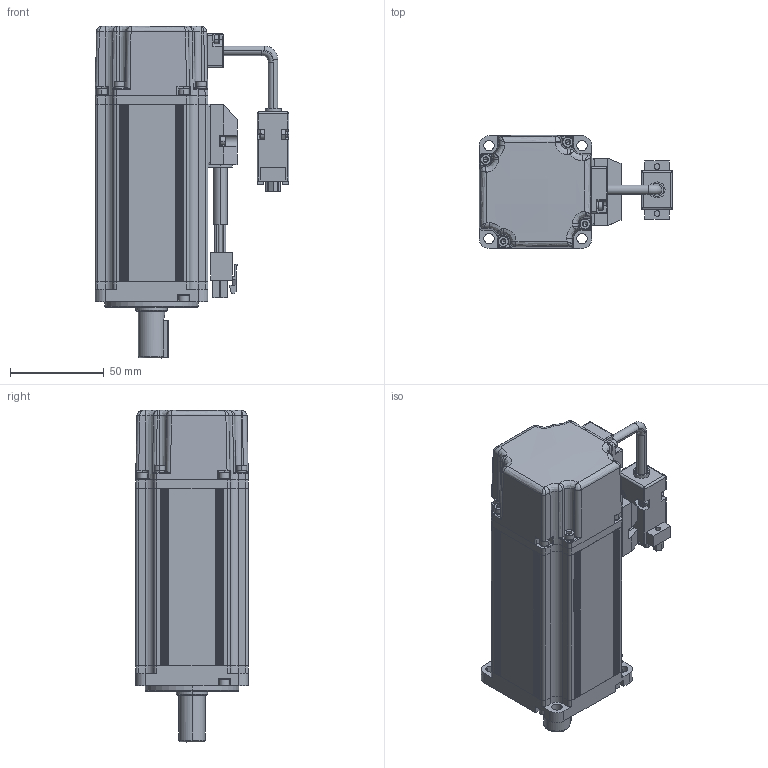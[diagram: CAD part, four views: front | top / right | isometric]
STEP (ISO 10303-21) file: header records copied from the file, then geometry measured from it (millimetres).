
FILE_DESCRIPTION((''),'2;1');
FILE_NAME('D555MH06-0R4G-2-1A0-1000_ASM','2018-05-02T',('Administrator'),(''),'PRO/ENGINEER BY PARAMETRIC TECHNOLOGY CORPORATION, 2009440','PRO/ENGINEER BY PARAMETRIC TECHNOLOGY CORPORATION, 2009440','');
FILE_SCHEMA(('CONFIG_CONTROL_DESIGN'));
Products named in the file (31): MH60-400W-8599; MH60-400-Z_ASM; ML60-QDG; 60-MFQ; 60-ZYG; GB-T93-2R5; GB-T70-M2R5X8; OQ-52X1; GB-T276-6003; GB-T93-3; GB-T70-M3X16; GB-T9877-17X28X4; ML60-Q_ASM; MH60-400W-JK; GB-T97-3; GB-T70-M3X5; DYX-CT; DYX-YXH; MH60-400W-DZ_ASM; 5X5X20; 60-H-JDS; OQ-50X1; 60-H-JDS_ASM; 60-FHZ-L; XHXCT; XHX; GB-T70-M3X12; 60-FHZ-ZJ_ASM; DYX-ZJ; XHX-ZJ; D555MH06-0R4G-2-1A0-1000_ASM
Assembly tree (65 placements, depth 3):
  D555MH06-0R4G-2-1A0-1000_ASM
    MH60-400-Z_ASM
      MH60-400W-8599
    ML60-Q_ASM
      ML60-QDG
      60-MFQ
      60-ZYG
      GB-T93-2R5  x3
      GB-T70-M2R5X8  x3
      OQ-52X1
      GB-T276-6003
      GB-T93-3  x4
      GB-T70-M3X16  x4
      GB-T9877-17X28X4
    MH60-400W-DZ_ASM
      MH60-400W-JK
      GB-T97-3
      GB-T93-3
      GB-T70-M3X5
      DYX-CT
      DYX-YXH
      GB-T93-2R5  x2
      GB-T70-M2R5X8  x2
    5X5X20
    60-H-JDS_ASM
      60-H-JDS
      OQ-52X1
      OQ-50X1
      GB-T93-3  x4
      GB-T70-M3X16  x4
    60-FHZ-ZJ_ASM
      60-FHZ-L
      XHXCT
      XHX
      GB-T93-2R5  x2
      GB-T70-M2R5X8  x2
      GB-T93-3  x4
      GB-T70-M3X12  x4
    DYX-ZJ
    XHX-ZJ
Bounding box: 103.09 x 60 x 176.72 mm (x, y, z)
Volume: 190644 mm3; surface area: 135054 mm2
Topology: 60 solids, 84 shells, 2652 faces, 6211 edges, 3815 vertices
Faces by surface type: plane 1368, cylinder 735, cone 339, torus 115, bspline 86, sphere 5, extrusion 4
Entity records: 65927 total; most frequent: CARTESIAN_POINT 18165, DIRECTION 9932, ORIENTED_EDGE 9624, EDGE_CURVE 4827, AXIS2_PLACEMENT_3D 3457, VERTEX_POINT 3079, VECTOR 3018, LINE 3014
